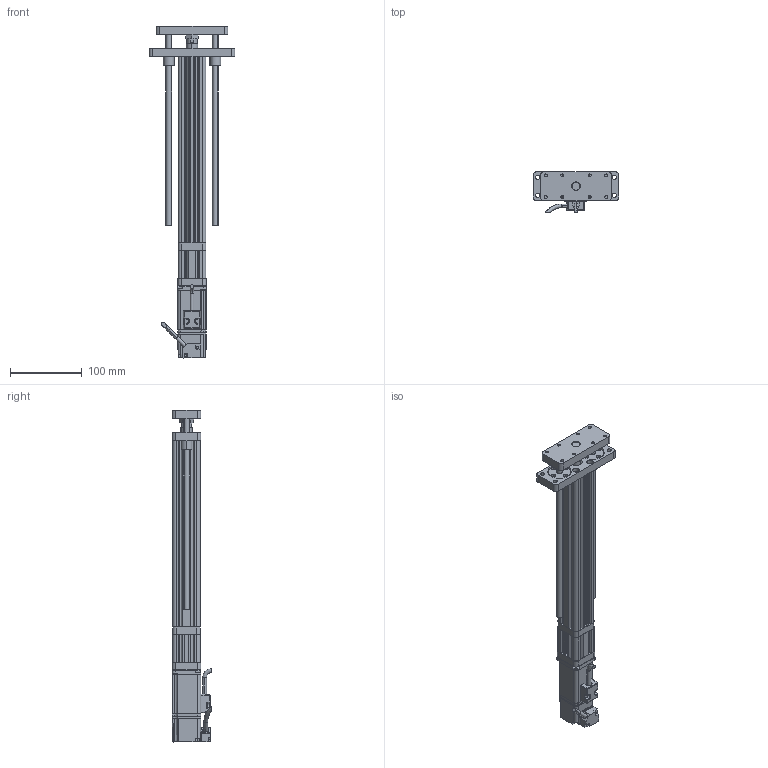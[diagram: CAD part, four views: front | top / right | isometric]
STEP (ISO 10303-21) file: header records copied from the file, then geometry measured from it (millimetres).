
FILE_DESCRIPTION (( 'STEP AP214' ), '1' );
FILE_NAME ('039-S200-D02-A-M3-C5-2.STEP', '2021-03-02T05:46:29', ( '' ), ( '' ), 'SwSTEP 2.0', 'SolidWorks 2018', '' );
FILE_SCHEMA (( 'AUTOMOTIVE_DESIGN' ));
Length unit declared in the file: millimetre
Products named in the file (12): CMC039-AZB; CMC039-GT; ECMA-CX0401ES-40框號系列機種-100W低慣量系列; CMC039-FL; LME01-d8; 039-S200-D02-A-M3-C5-2; CMC039-DZ; GB／T6172．1-2000六角薄螺母A级和B级M12; CMC039-ZLLJB; CMC039-DB; CMC039-DJZ; CMC039-DT
Assembly tree (13 placements, depth 2):
  039-S200-D02-A-M3-C5-2
    CMC039-GT
    CMC039-FL
    CMC039-DT
    LME01-d8  x2
    CMC039-DB
    GB／T6172．1-2000六角薄螺母A级和B级M12
    CMC039-DZ  x2
    CMC039-AZB
    CMC039-DJZ
    CMC039-ZLLJB
    ECMA-CX0401ES-40框號系列機種-100W低慣量系列
Bounding box: 120 x 55.39 x 463.6 mm (x, y, z)
Volume: 577859.9 mm3; surface area: 192763.5 mm2
Topology: 13 solids, 21 shells, 867 faces, 2244 edges, 1415 vertices
Faces by surface type: cylinder 384, plane 328, bspline 88, cone 67
Entity records: 32022 total; most frequent: CARTESIAN_POINT 11934, ORIENTED_EDGE 4230, DIRECTION 3647, EDGE_CURVE 2115, VERTEX_POINT 1356, AXIS2_PLACEMENT_3D 1292, LINE 1063, VECTOR 1063
